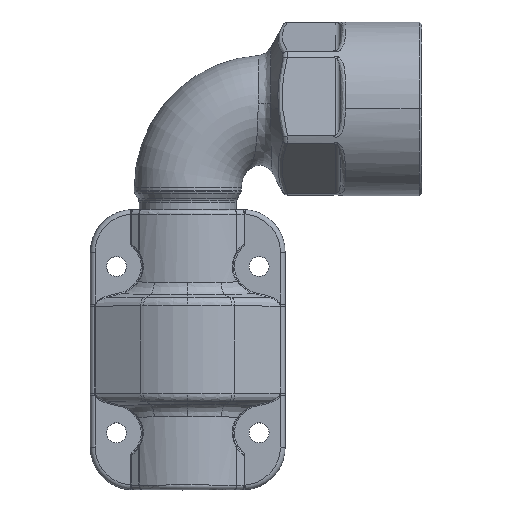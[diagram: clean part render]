
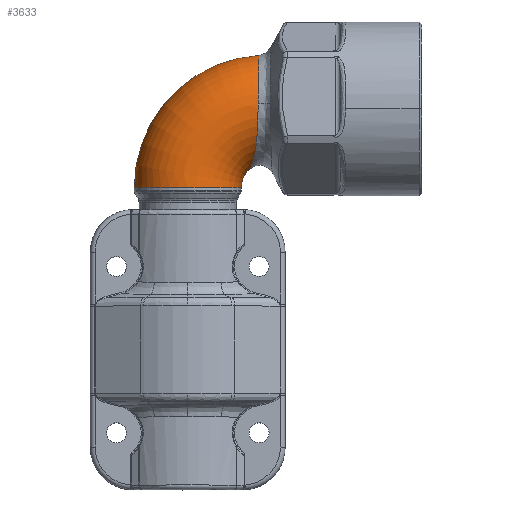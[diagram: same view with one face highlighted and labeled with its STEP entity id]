
A CAD part, top view. The second image highlights one B-rep face of the part: STEP entity #3633.
In plain terms, the highlighted toroidal (fillet/blend) face has major radius 16.644 mm and minor radius 11.265 mm.
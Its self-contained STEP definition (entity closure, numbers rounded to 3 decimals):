
#719=CARTESIAN_POINT('',(16.644,-16.644,0.));
#720=DIRECTION('',(0.,0.,1.));
#721=DIRECTION('',(-0.061,0.998,0.));
#722=AXIS2_PLACEMENT_3D('',#719,#720,#721);
#735=CARTESIAN_POINT('',(14.953,11.213,0.));
#736=CARTESIAN_POINT('',(14.952,11.213,0.68));
#737=CARTESIAN_POINT('',(14.949,11.093,2.037));
#738=CARTESIAN_POINT('',(14.94,10.521,4.049));
#739=CARTESIAN_POINT('',(14.929,9.664,5.825));
#740=CARTESIAN_POINT('',(14.912,8.302,7.662));
#741=CARTESIAN_POINT('',(14.897,6.705,9.074));
#742=CARTESIAN_POINT('',(14.88,5.062,10.097));
#743=CARTESIAN_POINT('',(14.857,3.034,10.897));
#744=CARTESIAN_POINT('',(14.833,1.684,11.145));
#745=CARTESIAN_POINT('',(14.822,1.004,11.211));
#750=CARTESIAN_POINT('',(14.822,1.004,11.211));
#751=CARTESIAN_POINT('',(14.82,0.891,11.222));
#752=CARTESIAN_POINT('',(14.815,0.665,11.241));
#753=CARTESIAN_POINT('',(14.807,0.323,11.259));
#754=CARTESIAN_POINT('',(14.803,0.093,11.264));
#755=CARTESIAN_POINT('',(14.8,-0.021,11.265));
#760=CARTESIAN_POINT('',(16.644,-16.644,0.));
#761=DIRECTION('',(0.,0.,1.));
#762=DIRECTION('',(-0.659,0.752,0.));
#763=AXIS2_PLACEMENT_3D('',#760,#761,#762);
#768=CARTESIAN_POINT('',(0.,-16.644,0.));
#769=DIRECTION('',(0.,-1.,0.));
#770=DIRECTION('',(1.,0.,0.));
#771=AXIS2_PLACEMENT_3D('',#768,#769,#770);
#776=CARTESIAN_POINT('',(13.1,-12.597,0.));
#777=CARTESIAN_POINT('',(13.098,-12.598,0.342));
#778=CARTESIAN_POINT('',(13.12,-12.535,1.052));
#779=CARTESIAN_POINT('',(13.235,-12.251,2.101));
#780=CARTESIAN_POINT('',(13.448,-11.714,3.369));
#781=CARTESIAN_POINT('',(13.704,-11.036,4.562));
#782=CARTESIAN_POINT('',(13.888,-10.469,5.436));
#783=CARTESIAN_POINT('',(14.094,-9.631,6.574));
#784=CARTESIAN_POINT('',(14.281,-8.533,7.778));
#785=CARTESIAN_POINT('',(14.443,-7.248,8.881));
#786=CARTESIAN_POINT('',(14.573,-5.728,9.871));
#787=CARTESIAN_POINT('',(14.671,-3.881,10.691));
#788=CARTESIAN_POINT('',(14.745,-1.952,11.171));
#789=CARTESIAN_POINT('',(14.788,-0.66,11.269));
#790=CARTESIAN_POINT('',(14.8,-0.021,11.265));
#2654=CARTESIAN_POINT('',(11.265,-16.644,0.));
#2655=VERTEX_POINT('',#2654);
#2656=CARTESIAN_POINT('',(-11.265,-16.644,0.));
#2657=VERTEX_POINT('',#2656);
#2658=VERTEX_POINT('',#735);
#2659=VERTEX_POINT('',#745);
#2660=VERTEX_POINT('',#755);
#2661=VERTEX_POINT('',#776);
#3617=CARTESIAN_POINT('',(16.644,-16.644,0.));
#3618=DIRECTION('',(0.,0.,1.));
#3619=DIRECTION('',(-1.,0.,0.));
#3620=AXIS2_PLACEMENT_3D('',#3617,#3618,#3619);
#3621=TOROIDAL_SURFACE('',#3620,16.644,11.265);
#3622=ORIENTED_EDGE('',*,*,#3595,.T.);
#3624=ORIENTED_EDGE('',*,*,#3623,.T.);
#3626=ORIENTED_EDGE('',*,*,#3625,.F.);
#3627=ORIENTED_EDGE('',*,*,#3610,.T.);
#3629=ORIENTED_EDGE('',*,*,#3628,.T.);
#3630=ORIENTED_EDGE('',*,*,#3606,.F.);
#3631=EDGE_LOOP('',(#3622,#3624,#3626,#3627,#3629,#3630));
#3632=FACE_OUTER_BOUND('',#3631,.F.);
#723=CIRCLE('',#722,27.908);
#746=B_SPLINE_CURVE_WITH_KNOTS('',3,(#735,#736,#737,#738,#739,#740,#741,#742,
#743,#744,#745),.UNSPECIFIED.,.F.,.F.,(4,1,1,1,1,1,1,1,4),(0.,0.125,0.25,
0.375,0.5,0.625,0.75,0.875,1.),.UNSPECIFIED.);
#756=B_SPLINE_CURVE_WITH_KNOTS('',3,(#750,#751,#752,#753,#754,#755),
.UNSPECIFIED.,.F.,.F.,(4,1,1,4),(0.,0.333,0.667,1.),
.UNSPECIFIED.);
#764=CIRCLE('',#763,5.379);
#772=CIRCLE('',#771,11.265);
#791=B_SPLINE_CURVE_WITH_KNOTS('',3,(#776,#777,#778,#779,#780,#781,#782,#783,
#784,#785,#786,#787,#788,#789,#790),.UNSPECIFIED.,.F.,.F.,(4,1,1,1,1,1,1,1,1,1,
1,1,4),(0.,0.083,0.167,0.25,0.333,
0.417,0.5,0.583,0.667,0.75,
0.833,0.917,1.),.UNSPECIFIED.);
#3595=EDGE_CURVE('',#2658,#2659,#746,.T.);
#3606=EDGE_CURVE('',#2658,#2657,#723,.T.);
#3610=EDGE_CURVE('',#2661,#2655,#764,.T.);
#3623=EDGE_CURVE('',#2659,#2660,#756,.T.);
#3625=EDGE_CURVE('',#2661,#2660,#791,.T.);
#3628=EDGE_CURVE('',#2655,#2657,#772,.T.);
#3633=ADVANCED_FACE('',(#3632),#3621,.T.);
